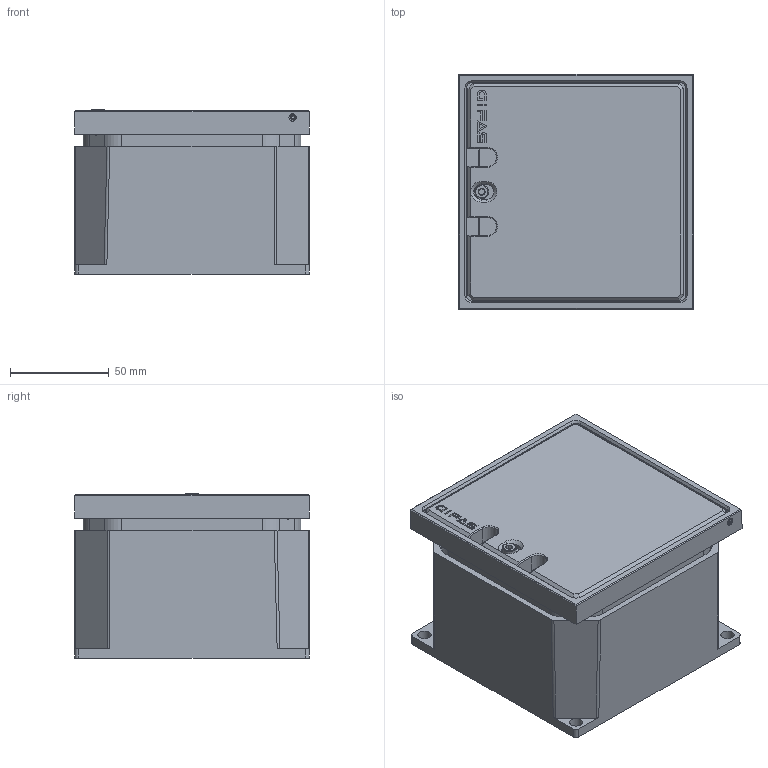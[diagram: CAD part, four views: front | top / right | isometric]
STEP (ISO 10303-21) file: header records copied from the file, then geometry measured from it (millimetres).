
FILE_DESCRIPTION(/* description */ (''),/* implementation_level */ '2;1');
FILE_NAME(/* name */ 'FONTO 4295 CLOSE.stp',/* time_stamp */ '2023-10-25T14:09:07+02:00',/* author */ ('stangass'),/* organization */ (''),/* preprocessor_version */ 'ST-DEVELOPER v19.2',/* originating_system */ 'Autodesk Inventor 2023',/* authorisation */ '');
FILE_SCHEMA (('AUTOMOTIVE_DESIGN { 1 0 10303 214 3 1 1 }'));
Products named in the file (20): 1838026_3DINV; 1837450_3DINV; 2141407_3DINV; 22100.0124 Spring Body; 1938906_3DINV; Cylinder head screw DIN 912 M4x5 07000.040.005(High); 1837467_3DINV; ISO 8752 - 3 x 16; 1837598_3DINV; 1837594_3DINV; BS 4183 - M3 x 5; 2141409_3DINV; DIN 6799 - 8; 1837455_3DINV; DIN 7984 - M8 x 50; #33362; DIN 125-1 - B 5,3; DIN 127 - A 5; DIN 912 - M5 x 8; Erdungsdraht
Assembly tree (32 placements, depth 2):
  1838026_3DINV
    1837450_3DINV
    2141407_3DINV  x2
    22100.0124 Spring Body
    1938906_3DINV
    Cylinder head screw DIN 912 M4x5 07000.040.005(High)
    1837467_3DINV
    ISO 8752 - 3 x 16  x2
    1837598_3DINV
    1837594_3DINV
    BS 4183 - M3 x 5  x2
    2141409_3DINV
    DIN 6799 - 8  x4
    1837455_3DINV
    DIN 7984 - M8 x 50  x4
    #33362  x2
    DIN 125-1 - B 5,3  x2
    DIN 127 - A 5  x2
    DIN 912 - M5 x 8  x2
    Erdungsdraht
Bounding box: 119 x 119 x 83.4 mm (x, y, z)
Volume: 425878.5 mm3; surface area: 170655.2 mm2
Topology: 32 solids, 32 shells, 1130 faces, 2876 edges, 1821 vertices
Faces by surface type: plane 513, cylinder 357, cone 99, bspline 91, torus 55, sphere 15
Full cylindrical faces by diameter (mm): 2 x1, 2.18 x2, 2.387 x2, 2.459 x2, 2.8 x8, 2.82 x2, 3 x5, 3.2 x1, 3.242 x1, 3.683 x2, 3.7 x2, 4 x1, 4.134 x2, 4.394 x2, 4.5 x1, 4.521 x2, 5 x4, 5.207 x2, 5.25 x2, 5.3 x2, 6 x4, 6.647 x8, 7 x1, 7.9 x1, 8 x5, 8.5 x2, 10 x2, 13 x4, 13.1 x4, 22.835 x2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
Entity records: 33406 total; most frequent: CARTESIAN_POINT 10684, DIRECTION 4643, ORIENTED_EDGE 4540, EDGE_CURVE 2270, AXIS2_PLACEMENT_3D 1688, VERTEX_POINT 1441, LINE 1267, VECTOR 1267
